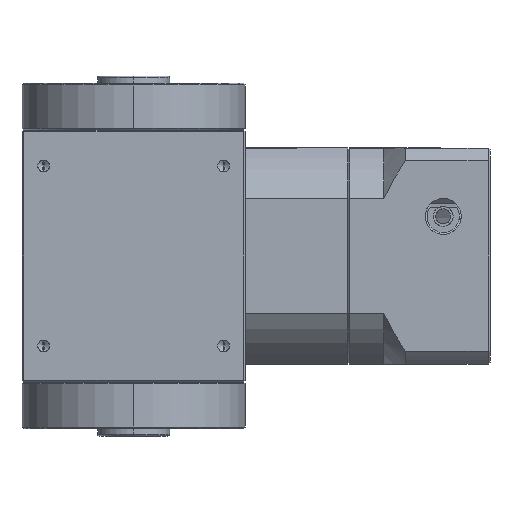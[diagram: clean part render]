
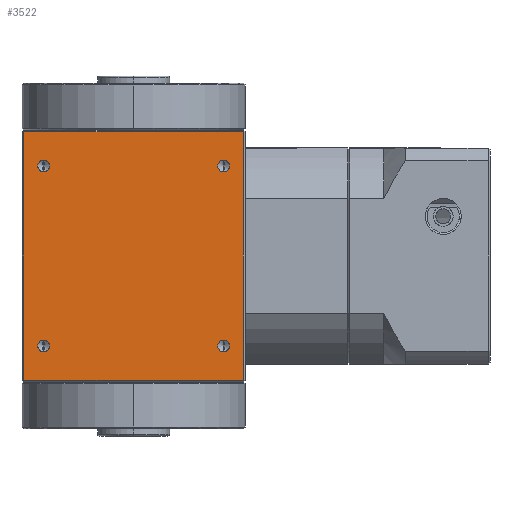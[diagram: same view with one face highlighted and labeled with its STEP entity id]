
A CAD part, left-side view. The second image highlights one B-rep face of the part: STEP entity #3522.
In plain terms, the highlighted planar face has unit normal (-1, 0, 0).
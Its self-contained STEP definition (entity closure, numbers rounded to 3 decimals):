
#426 = CIRCLE ( 'NONE', #4943, 1.65 ) ;
#469 = CIRCLE ( 'NONE', #4937, 1.65 ) ;
#783 = FACE_BOUND ( 'NONE', #7410, .T. ) ;
#786 = FACE_BOUND ( 'NONE', #7526, .T. ) ;
#788 = FACE_BOUND ( 'NONE', #3321, .T. ) ;
#790 = FACE_OUTER_BOUND ( 'NONE', #7409, .T. ) ;
#792 = FACE_BOUND ( 'NONE', #7473, .T. ) ;
#1018 = CIRCLE ( 'NONE', #6159, 1.65 ) ;
#1054 = CIRCLE ( 'NONE', #7398, 1.65 ) ;
#1059 = CIRCLE ( 'NONE', #7396, 1.65 ) ;
#1067 = CIRCLE ( 'NONE', #3239, 1.65 ) ;
#1083 = LINE ( 'NONE', #8150, #1084 ) ;
#1084 = VECTOR ( 'NONE', #8152, 1000. ) ;
#1088 = LINE ( 'NONE', #8160, #1091 ) ;
#1091 = VECTOR ( 'NONE', #8161, 1000. ) ;
#1092 = CIRCLE ( 'NONE', #6109, 1.65 ) ;
#1101 = LINE ( 'NONE', #8187, #1104 ) ;
#1104 = VECTOR ( 'NONE', #8188, 1000. ) ;
#1126 = LINE ( 'NONE', #8259, #1128 ) ;
#1128 = VECTOR ( 'NONE', #8287, 1000. ) ;
#1141 = CIRCLE ( 'NONE', #3860, 1.65 ) ;
#1246 = DIRECTION ( 'NONE',  ( 0., 0., 1. ) ) ;
#1248 = DIRECTION ( 'NONE',  ( -1., 0., 0. ) ) ;
#1249 = CARTESIAN_POINT ( 'NONE',  ( -31., -25., 25. ) ) ;
#1321 = VERTEX_POINT ( 'NONE', #3686 ) ;
#1581 = VERTEX_POINT ( 'NONE', #3617 ) ;
#1646 = VERTEX_POINT ( 'NONE', #3757 ) ;
#1665 = VERTEX_POINT ( 'NONE', #3585 ) ;
#1671 = VERTEX_POINT ( 'NONE', #3780 ) ;
#1675 = VERTEX_POINT ( 'NONE', #3627 ) ;
#1717 = VERTEX_POINT ( 'NONE', #3703 ) ;
#1722 = VERTEX_POINT ( 'NONE', #3683 ) ;
#1852 = VERTEX_POINT ( 'NONE', #2177 ) ;
#1980 = VERTEX_POINT ( 'NONE', #2190 ) ;
#1999 = VERTEX_POINT ( 'NONE', #2166 ) ;
#2001 = VERTEX_POINT ( 'NONE', #2287 ) ;
#2166 = CARTESIAN_POINT ( 'NONE',  ( -31., 30.5, 34.5 ) ) ;
#2177 = CARTESIAN_POINT ( 'NONE',  ( -31., -25., -26.65 ) ) ;
#2190 = CARTESIAN_POINT ( 'NONE',  ( -31., -25., 26.65 ) ) ;
#2287 = CARTESIAN_POINT ( 'NONE',  ( -31., -25., 23.35 ) ) ;
#2923 = ORIENTED_EDGE ( 'NONE', *, *, #4341, .F. ) ;
#2933 = ORIENTED_EDGE ( 'NONE', *, *, #4378, .F. ) ;
#2940 = ORIENTED_EDGE ( 'NONE', *, *, #4339, .T. ) ;
#3000 = ORIENTED_EDGE ( 'NONE', *, *, #4335, .T. ) ;
#3004 = ORIENTED_EDGE ( 'NONE', *, *, #4326, .F. ) ;
#3006 = ORIENTED_EDGE ( 'NONE', *, *, #4347, .T. ) ;
#3007 = ORIENTED_EDGE ( 'NONE', *, *, #4367, .T. ) ;
#3047 = EDGE_CURVE ( 'NONE', #1852, #1581, #426, .T. ) ;
#3076 = EDGE_CURVE ( 'NONE', #2001, #1980, #469, .T. ) ;
#3100 = ORIENTED_EDGE ( 'NONE', *, *, #4309, .F. ) ;
#3101 = ORIENTED_EDGE ( 'NONE', *, *, #3076, .F. ) ;
#3102 = ORIENTED_EDGE ( 'NONE', *, *, #3047, .F. ) ;
#3104 = ORIENTED_EDGE ( 'NONE', *, *, #4315, .F. ) ;
#3105 = ORIENTED_EDGE ( 'NONE', *, *, #4286, .F. ) ;
#3239 = AXIS2_PLACEMENT_3D ( 'NONE', #8087, #8088, #8089 ) ;
#3321 = EDGE_LOOP ( 'NONE', ( #3100, #3102 ) ) ;
#3522 = ADVANCED_FACE ( 'NONE', ( #786, #783, #792, #788, #790 ), #6847, .F. ) ;
#3585 = CARTESIAN_POINT ( 'NONE',  ( -31., 25., -23.35 ) ) ;
#3617 = CARTESIAN_POINT ( 'NONE',  ( -31., -25., -23.35 ) ) ;
#3627 = CARTESIAN_POINT ( 'NONE',  ( -31., 25., -26.65 ) ) ;
#3683 = CARTESIAN_POINT ( 'NONE',  ( -31., -30.5, 34.5 ) ) ;
#3686 = CARTESIAN_POINT ( 'NONE',  ( -31., 25., 26.65 ) ) ;
#3703 = CARTESIAN_POINT ( 'NONE',  ( -31., 30.5, -34.5 ) ) ;
#3757 = CARTESIAN_POINT ( 'NONE',  ( -31., -30.5, -34.5 ) ) ;
#3780 = CARTESIAN_POINT ( 'NONE',  ( -31., 25., 23.35 ) ) ;
#3860 = AXIS2_PLACEMENT_3D ( 'NONE', #8324, #8325, #8326 ) ;
#4286 = EDGE_CURVE ( 'NONE', #1675, #1665, #1018, .T. ) ;
#4309 = EDGE_CURVE ( 'NONE', #1581, #1852, #1054, .T. ) ;
#4315 = EDGE_CURVE ( 'NONE', #1980, #2001, #1059, .T. ) ;
#4326 = EDGE_CURVE ( 'NONE', #1671, #1321, #1067, .T. ) ;
#4335 = EDGE_CURVE ( 'NONE', #1999, #1717, #1083, .T. ) ;
#4339 = EDGE_CURVE ( 'NONE', #1717, #1646, #1088, .T. ) ;
#4341 = EDGE_CURVE ( 'NONE', #1665, #1675, #1092, .T. ) ;
#4347 = EDGE_CURVE ( 'NONE', #1722, #1999, #1101, .T. ) ;
#4367 = EDGE_CURVE ( 'NONE', #1646, #1722, #1126, .T. ) ;
#4378 = EDGE_CURVE ( 'NONE', #1321, #1671, #1141, .T. ) ;
#4404 = DIRECTION ( 'NONE',  ( 0., 0., 1. ) ) ;
#4429 = CARTESIAN_POINT ( 'NONE',  ( -31., -25., -25. ) ) ;
#4435 = DIRECTION ( 'NONE',  ( -1., 0., 0. ) ) ;
#4937 = AXIS2_PLACEMENT_3D ( 'NONE', #1249, #1248, #1246 ) ;
#4943 = AXIS2_PLACEMENT_3D ( 'NONE', #4429, #4435, #4404 ) ;
#6043 = AXIS2_PLACEMENT_3D ( 'NONE', #6848, #6844, #6850 ) ;
#6109 = AXIS2_PLACEMENT_3D ( 'NONE', #8177, #8178, #8179 ) ;
#6159 = AXIS2_PLACEMENT_3D ( 'NONE', #7909, #7910, #7911 ) ;
#6844 = DIRECTION ( 'NONE',  ( 1., 0., 0. ) ) ;
#6847 = PLANE ( 'NONE',  #6043 ) ;
#6848 = CARTESIAN_POINT ( 'NONE',  ( -31., -31., 35. ) ) ;
#6850 = DIRECTION ( 'NONE',  ( 0., 0., -1. ) ) ;
#7396 = AXIS2_PLACEMENT_3D ( 'NONE', #8018, #8019, #8020 ) ;
#7398 = AXIS2_PLACEMENT_3D ( 'NONE', #7971, #7972, #7973 ) ;
#7409 = EDGE_LOOP ( 'NONE', ( #2940, #3007, #3006, #3000 ) ) ;
#7410 = EDGE_LOOP ( 'NONE', ( #2933, #3004 ) ) ;
#7473 = EDGE_LOOP ( 'NONE', ( #3104, #3101 ) ) ;
#7526 = EDGE_LOOP ( 'NONE', ( #2923, #3105 ) ) ;
#7909 = CARTESIAN_POINT ( 'NONE',  ( -31., 25., -25. ) ) ;
#7910 = DIRECTION ( 'NONE',  ( -1., 0., 0. ) ) ;
#7911 = DIRECTION ( 'NONE',  ( 0., 0., 1. ) ) ;
#7971 = CARTESIAN_POINT ( 'NONE',  ( -31., -25., -25. ) ) ;
#7972 = DIRECTION ( 'NONE',  ( -1., 0., 0. ) ) ;
#7973 = DIRECTION ( 'NONE',  ( 0., 0., 1. ) ) ;
#8018 = CARTESIAN_POINT ( 'NONE',  ( -31., -25., 25. ) ) ;
#8019 = DIRECTION ( 'NONE',  ( -1., 0., 0. ) ) ;
#8020 = DIRECTION ( 'NONE',  ( 0., 0., 1. ) ) ;
#8087 = CARTESIAN_POINT ( 'NONE',  ( -31., 25., 25. ) ) ;
#8088 = DIRECTION ( 'NONE',  ( -1., 0., 0. ) ) ;
#8089 = DIRECTION ( 'NONE',  ( 0., 0., 1. ) ) ;
#8150 = CARTESIAN_POINT ( 'NONE',  ( -31., 30.5, 35. ) ) ;
#8152 = DIRECTION ( 'NONE',  ( 0., 0., -1. ) ) ;
#8160 = CARTESIAN_POINT ( 'NONE',  ( -31., -31., -34.5 ) ) ;
#8161 = DIRECTION ( 'NONE',  ( 0., -1., 0. ) ) ;
#8177 = CARTESIAN_POINT ( 'NONE',  ( -31., 25., -25. ) ) ;
#8178 = DIRECTION ( 'NONE',  ( -1., 0., 0. ) ) ;
#8179 = DIRECTION ( 'NONE',  ( 0., 0., 1. ) ) ;
#8187 = CARTESIAN_POINT ( 'NONE',  ( -31., 31., 34.5 ) ) ;
#8188 = DIRECTION ( 'NONE',  ( 0., 1., 0. ) ) ;
#8259 = CARTESIAN_POINT ( 'NONE',  ( -31., -30.5, 35. ) ) ;
#8287 = DIRECTION ( 'NONE',  ( 0., 0., 1. ) ) ;
#8324 = CARTESIAN_POINT ( 'NONE',  ( -31., 25., 25. ) ) ;
#8325 = DIRECTION ( 'NONE',  ( -1., 0., 0. ) ) ;
#8326 = DIRECTION ( 'NONE',  ( 0., 0., 1. ) ) ;
